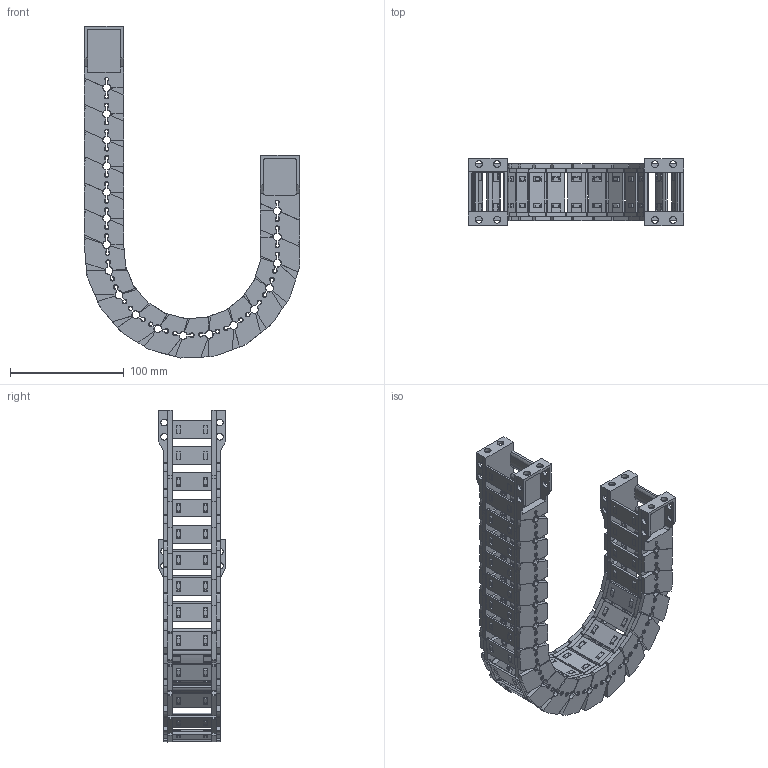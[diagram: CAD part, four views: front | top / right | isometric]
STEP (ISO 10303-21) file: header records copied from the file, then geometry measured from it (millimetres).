
FILE_DESCRIPTION(/* description */ (''),/* implementation_level */ '2;1');
FILE_NAME(/* name */ 'JY28-35-R75.stp',/* time_stamp */ '2026-06-03T13:50:11+08:00',/* author */ (''),/* organization */ (''),/* preprocessor_version */ 'ST-DEVELOPER v19.4',/* originating_system */ 'SIEMENS PLM Software NX2306.5001',/* authorisation */ '');
FILE_SCHEMA (('AP203_CONFIGURATION_CONTROLLED_3D_DESIGN_OF_MECHANICAL_PARTS_AND_ASSEMBLIES_MIM_LF { 1 0 10303 403 2 1 2}'));
Products named in the file (1): _model1_objects
Bounding box: 189.55 x 59 x 292.17 mm (x, y, z)
Volume: 288072.6 mm3; surface area: 212402.7 mm2
Topology: 74 solids, 74 shells, 6194 faces, 17618 edges, 11518 vertices
Faces by surface type: plane 4058, cone 1120, cylinder 978, bspline 36, torus 2
Full cylindrical faces by diameter (mm): 6 x24
Entity records: 209461 total; most frequent: CARTESIAN_POINT 46487, ORIENTED_EDGE 35144, DIRECTION 33002, EDGE_CURVE 17572, LINE 11632, VECTOR 11632, VERTEX_POINT 11496, AXIS2_PLACEMENT_3D 10685
